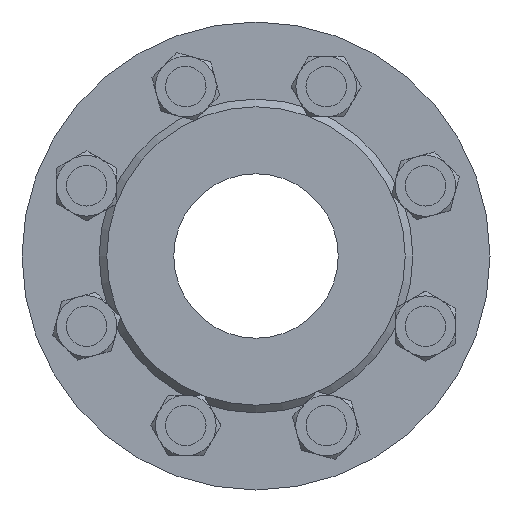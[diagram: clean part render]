
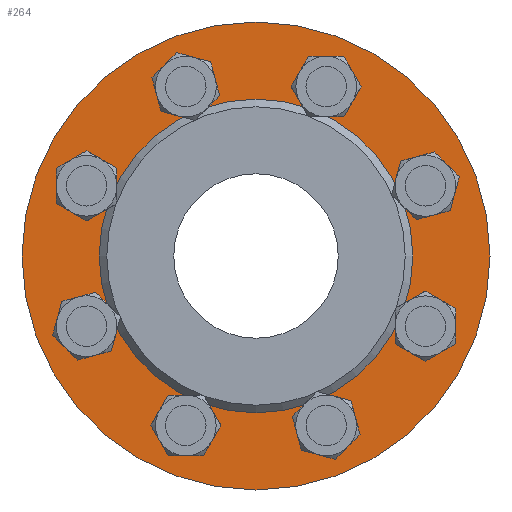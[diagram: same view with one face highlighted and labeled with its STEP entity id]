
A CAD part, left-side view. The second image highlights one B-rep face of the part: STEP entity #264.
In plain terms, the highlighted planar face has unit normal (-1, 0, 0).
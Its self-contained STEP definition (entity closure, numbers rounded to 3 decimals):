
#242 = DIRECTION ( 'NONE',  ( 0., 0., -1. ) ) ;
#264 = ADVANCED_FACE ( 'NONE', ( #16901, #21348, #27642, #16758, #18903, #25505, #9745, #14335, #3817, #8007 ), #16353, .F. ) ;
#551 = EDGE_CURVE ( 'NONE', #4511, #4511, #3860, .T. ) ;
#847 = DIRECTION ( 'NONE',  ( -1., 0., 0. ) ) ;
#1402 = DIRECTION ( 'NONE',  ( -1., 0., 0. ) ) ;
#3113 = CIRCLE ( 'NONE', #3607, 8. ) ;
#3607 = AXIS2_PLACEMENT_3D ( 'NONE', #17198, #21353, #27796 ) ;
#3817 = FACE_BOUND ( 'NONE', #10486, .T. ) ;
#3860 = CIRCLE ( 'NONE', #7557, 8. ) ;
#4338 = EDGE_CURVE ( 'NONE', #15147, #15147, #5923, .T. ) ;
#4511 = VERTEX_POINT ( 'NONE', #22034 ) ;
#4558 = EDGE_CURVE ( 'NONE', #15586, #15586, #3113, .T. ) ;
#5166 = ORIENTED_EDGE ( 'NONE', *, *, #7991, .F. ) ;
#5464 = VERTEX_POINT ( 'NONE', #14239 ) ;
#5514 = DIRECTION ( 'NONE',  ( 0., 0., -1. ) ) ;
#5624 = EDGE_CURVE ( 'NONE', #25166, #25166, #14837, .T. ) ;
#5840 = CARTESIAN_POINT ( 'NONE',  ( 3., 62., 0. ) ) ;
#5923 = CIRCLE ( 'NONE', #16041, 8. ) ;
#6225 = EDGE_LOOP ( 'NONE', ( #14737 ) ) ;
#6528 = CARTESIAN_POINT ( 'NONE',  ( 3., -27.745, -74.981 ) ) ;
#6571 = DIRECTION ( 'NONE',  ( -1., 0., 0. ) ) ;
#6922 = AXIS2_PLACEMENT_3D ( 'NONE', #22972, #11941, #27126 ) ;
#7127 = CIRCLE ( 'NONE', #22706, 8. ) ;
#7258 = VERTEX_POINT ( 'NONE', #18301 ) ;
#7530 = CARTESIAN_POINT ( 'NONE',  ( 3., 27.745, 58.981 ) ) ;
#7557 = AXIS2_PLACEMENT_3D ( 'NONE', #16717, #18597, #5514 ) ;
#7644 = DIRECTION ( 'NONE',  ( 0., 0., -1. ) ) ;
#7703 = CARTESIAN_POINT ( 'NONE',  ( 3., 0., 0. ) ) ;
#7798 = VERTEX_POINT ( 'NONE', #21002 ) ;
#7859 = DIRECTION ( 'NONE',  ( 1., 0., 0. ) ) ;
#7991 = EDGE_CURVE ( 'NONE', #7258, #7258, #22960, .T. ) ;
#8007 = FACE_OUTER_BOUND ( 'NONE', #6225, .T. ) ;
#8160 = DIRECTION ( 'NONE',  ( -1., 0., 0. ) ) ;
#8345 = ORIENTED_EDGE ( 'NONE', *, *, #14532, .F. ) ;
#8871 = AXIS2_PLACEMENT_3D ( 'NONE', #12473, #8160, #25807 ) ;
#9131 = CARTESIAN_POINT ( 'NONE',  ( 3., 0., 0. ) ) ;
#9745 = FACE_BOUND ( 'NONE', #21196, .T. ) ;
#10058 = CARTESIAN_POINT ( 'NONE',  ( 3., 27.745, -66.981 ) ) ;
#10360 = CARTESIAN_POINT ( 'NONE',  ( 3., 66.981, -27.745 ) ) ;
#10486 = EDGE_LOOP ( 'NONE', ( #25764 ) ) ;
#10528 = CARTESIAN_POINT ( 'NONE',  ( 3., 27.745, -74.981 ) ) ;
#10608 = ORIENTED_EDGE ( 'NONE', *, *, #551, .F. ) ;
#10776 = AXIS2_PLACEMENT_3D ( 'NONE', #5840, #7859, #25097 ) ;
#10830 = AXIS2_PLACEMENT_3D ( 'NONE', #9131, #26628, #19895 ) ;
#11941 = DIRECTION ( 'NONE',  ( -1., 0., 0. ) ) ;
#12473 = CARTESIAN_POINT ( 'NONE',  ( 3., 27.745, 66.981 ) ) ;
#12549 = VERTEX_POINT ( 'NONE', #10528 ) ;
#12665 = CIRCLE ( 'NONE', #10830, 62. ) ;
#12673 = EDGE_LOOP ( 'NONE', ( #21155 ) ) ;
#12709 = EDGE_LOOP ( 'NONE', ( #15797 ) ) ;
#12972 = CARTESIAN_POINT ( 'NONE',  ( 3., 0., 62. ) ) ;
#13394 = VERTEX_POINT ( 'NONE', #22147 ) ;
#13432 = CARTESIAN_POINT ( 'NONE',  ( 3., 66.981, 19.745 ) ) ;
#13507 = EDGE_CURVE ( 'NONE', #12549, #12549, #28142, .T. ) ;
#13793 = CARTESIAN_POINT ( 'NONE',  ( 3., -27.745, -66.981 ) ) ;
#14239 = CARTESIAN_POINT ( 'NONE',  ( 3., 0., 92.5 ) ) ;
#14335 = FACE_BOUND ( 'NONE', #12673, .T. ) ;
#14532 = EDGE_CURVE ( 'NONE', #7798, #7798, #7127, .T. ) ;
#14737 = ORIENTED_EDGE ( 'NONE', *, *, #27119, .T. ) ;
#14837 = CIRCLE ( 'NONE', #8871, 8. ) ;
#15147 = VERTEX_POINT ( 'NONE', #6528 ) ;
#15586 = VERTEX_POINT ( 'NONE', #13432 ) ;
#15797 = ORIENTED_EDGE ( 'NONE', *, *, #4338, .F. ) ;
#15917 = EDGE_CURVE ( 'NONE', #23863, #23863, #12665, .T. ) ;
#16041 = AXIS2_PLACEMENT_3D ( 'NONE', #13793, #22406, #242 ) ;
#16046 = DIRECTION ( 'NONE',  ( 0., 0., 1. ) ) ;
#16353 = PLANE ( 'NONE',  #10776 ) ;
#16717 = CARTESIAN_POINT ( 'NONE',  ( 3., -66.981, -27.745 ) ) ;
#16758 = FACE_BOUND ( 'NONE', #22528, .T. ) ;
#16901 = FACE_BOUND ( 'NONE', #19043, .T. ) ;
#17198 = CARTESIAN_POINT ( 'NONE',  ( 3., 66.981, 27.745 ) ) ;
#18301 = CARTESIAN_POINT ( 'NONE',  ( 3., -27.745, 58.981 ) ) ;
#18329 = DIRECTION ( 'NONE',  ( -1., 0., 0. ) ) ;
#18402 = CIRCLE ( 'NONE', #6922, 8. ) ;
#18597 = DIRECTION ( 'NONE',  ( -1., 0., 0. ) ) ;
#18903 = FACE_BOUND ( 'NONE', #12709, .T. ) ;
#19043 = EDGE_LOOP ( 'NONE', ( #25750 ) ) ;
#19356 = EDGE_LOOP ( 'NONE', ( #5166 ) ) ;
#19895 = DIRECTION ( 'NONE',  ( 0., 0., 1. ) ) ;
#19909 = AXIS2_PLACEMENT_3D ( 'NONE', #10058, #847, #21102 ) ;
#19925 = DIRECTION ( 'NONE',  ( 0., 0., -1. ) ) ;
#19936 = AXIS2_PLACEMENT_3D ( 'NONE', #7703, #18329, #16046 ) ;
#20435 = ORIENTED_EDGE ( 'NONE', *, *, #21784, .F. ) ;
#20846 = CIRCLE ( 'NONE', #19936, 92.5 ) ;
#21002 = CARTESIAN_POINT ( 'NONE',  ( 3., 66.981, -35.745 ) ) ;
#21102 = DIRECTION ( 'NONE',  ( 0., 0., -1. ) ) ;
#21155 = ORIENTED_EDGE ( 'NONE', *, *, #4558, .F. ) ;
#21196 = EDGE_LOOP ( 'NONE', ( #8345 ) ) ;
#21348 = FACE_BOUND ( 'NONE', #19356, .T. ) ;
#21353 = DIRECTION ( 'NONE',  ( -1., 0., 0. ) ) ;
#21784 = EDGE_CURVE ( 'NONE', #13394, #13394, #18402, .T. ) ;
#22034 = CARTESIAN_POINT ( 'NONE',  ( 3., -66.981, -35.745 ) ) ;
#22090 = ORIENTED_EDGE ( 'NONE', *, *, #13507, .F. ) ;
#22147 = CARTESIAN_POINT ( 'NONE',  ( 3., -66.981, 19.745 ) ) ;
#22406 = DIRECTION ( 'NONE',  ( -1., 0., 0. ) ) ;
#22528 = EDGE_LOOP ( 'NONE', ( #10608 ) ) ;
#22706 = AXIS2_PLACEMENT_3D ( 'NONE', #10360, #1402, #7644 ) ;
#22960 = CIRCLE ( 'NONE', #26149, 8. ) ;
#22972 = CARTESIAN_POINT ( 'NONE',  ( 3., -66.981, 27.745 ) ) ;
#23863 = VERTEX_POINT ( 'NONE', #12972 ) ;
#23935 = CARTESIAN_POINT ( 'NONE',  ( 3., -27.745, 66.981 ) ) ;
#24590 = EDGE_LOOP ( 'NONE', ( #20435 ) ) ;
#25097 = DIRECTION ( 'NONE',  ( 0., 0., -1. ) ) ;
#25166 = VERTEX_POINT ( 'NONE', #7530 ) ;
#25505 = FACE_BOUND ( 'NONE', #26994, .T. ) ;
#25750 = ORIENTED_EDGE ( 'NONE', *, *, #5624, .F. ) ;
#25764 = ORIENTED_EDGE ( 'NONE', *, *, #15917, .F. ) ;
#25807 = DIRECTION ( 'NONE',  ( 0., 0., -1. ) ) ;
#26149 = AXIS2_PLACEMENT_3D ( 'NONE', #23935, #6571, #19925 ) ;
#26628 = DIRECTION ( 'NONE',  ( -1., 0., 0. ) ) ;
#26994 = EDGE_LOOP ( 'NONE', ( #22090 ) ) ;
#27119 = EDGE_CURVE ( 'NONE', #5464, #5464, #20846, .T. ) ;
#27126 = DIRECTION ( 'NONE',  ( 0., 0., -1. ) ) ;
#27642 = FACE_BOUND ( 'NONE', #24590, .T. ) ;
#27796 = DIRECTION ( 'NONE',  ( 0., 0., -1. ) ) ;
#28142 = CIRCLE ( 'NONE', #19909, 8. ) ;
